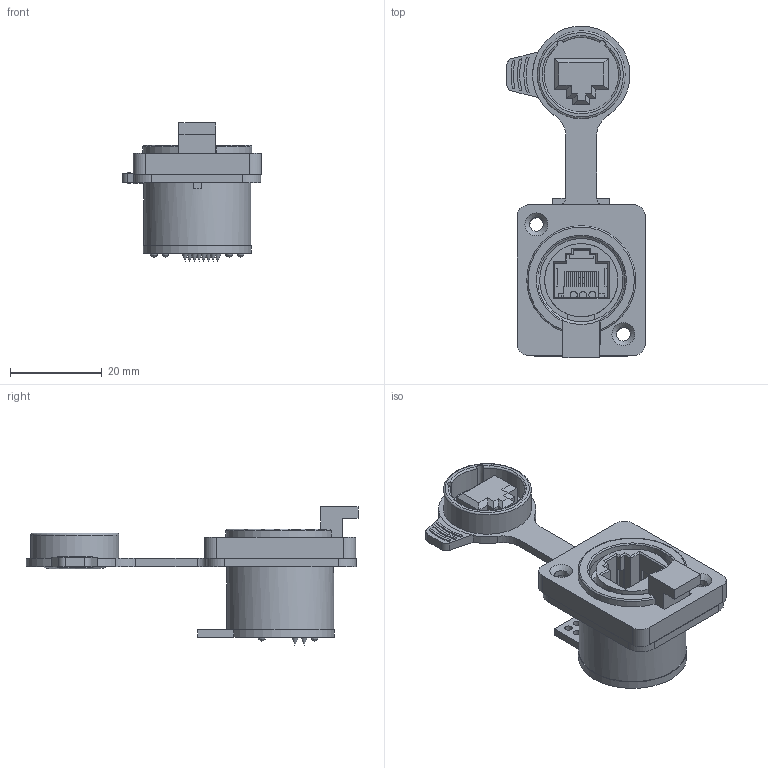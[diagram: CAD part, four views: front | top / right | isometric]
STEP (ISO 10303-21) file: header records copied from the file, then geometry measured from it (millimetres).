
FILE_DESCRIPTION(/* description */ (''),/* implementation_level */ '2;1');
FILE_NAME(/* name */ 'RCH-KNZ63-PCB90 自锁.stp',/* time_stamp */ '2025-05-17T14:03:19+08:00',/* author */ (''),/* organization */ (''),/* preprocessor_version */ 'ST-DEVELOPER v16',/* originating_system */ 'SIEMENS PLM Software NX 10.0',/* authorisation */ '');
FILE_SCHEMA (('CONFIG_CONTROL_DESIGN'));
Length unit declared in the file: millimetre
Products named in the file (1): KNZ-63-N90自锁带防尘盖_stp
Bounding box: 30.31 x 72.55 x 30.23 mm (x, y, z)
Volume: 9593.2 mm3; surface area: 15685.2 mm2
Topology: 43 solids, 43 shells, 467 faces, 1153 edges, 759 vertices
Faces by surface type: plane 323, cylinder 122, cone 12, torus 5, bspline 5
Full cylindrical faces by diameter (mm): 1.57 x16, 1.62 x8, 3 x6, 3.6 x4, 3.8 x3, 16 x1, 18.2 x1, 19.2 x1, 23.4 x1
Entity records: 13727 total; most frequent: CARTESIAN_POINT 2553, DIRECTION 2268, ORIENTED_EDGE 2150, EDGE_CURVE 1075, LINE 788, VECTOR 788, VERTEX_POINT 749, AXIS2_PLACEMENT_3D 740
